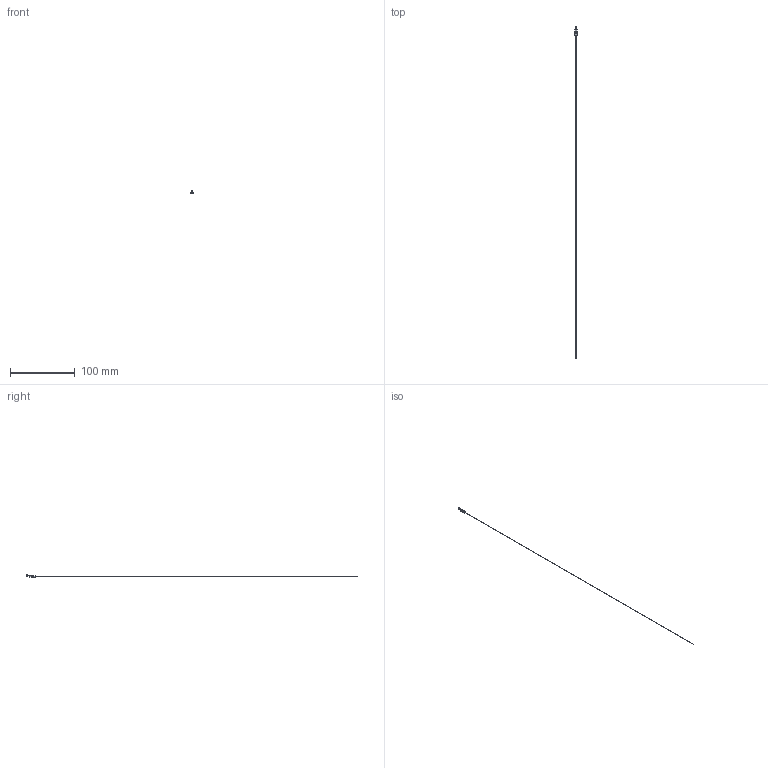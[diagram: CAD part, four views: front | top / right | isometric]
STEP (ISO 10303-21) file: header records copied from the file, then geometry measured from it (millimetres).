
FILE_DESCRIPTION(('CATIA V5 STEP Exchange'),'2;1');
FILE_NAME('W:\KONSTRUKTION\PRODUCTS\TM\TMPT100S\TMPT100S.stp','2020-06-05T09:38:12+00:00',('none'),('none'),'CATIA Version 5 Release 21 SP 6 (IN-10)','CATIA V5 STEP AP203','none');
FILE_SCHEMA(('CONFIG_CONTROL_DESIGN'));
Length unit declared in the file: millimetre
Products named in the file (1): TMPT100S
Assembly tree (4 placements, depth 2):
  TMPT100S
    #57
    #2402
    #2713
    #3157
Bounding box: 3.2 x 512.5 x 4.2 mm (x, y, z)
Volume: 96.8 mm3; surface area: 1455 mm2
Topology: 7 solids, 7 shells, 134 faces, 297 edges, 178 vertices
Faces by surface type: plane 64, cylinder 51, bspline 6, cone 6, torus 6, extrusion 1
Entity records: 3753 total; most frequent: CARTESIAN_POINT 965, ORIENTED_EDGE 594, DIRECTION 447, EDGE_CURVE 297, AXIS2_PLACEMENT_3D 202, VERTEX_POINT 178, VECTOR 147, LINE 146
